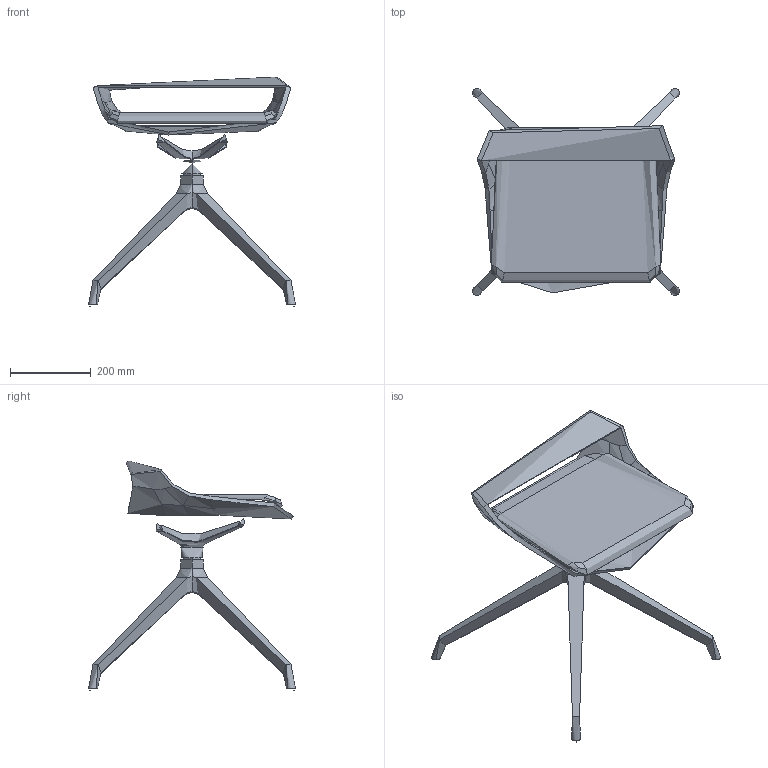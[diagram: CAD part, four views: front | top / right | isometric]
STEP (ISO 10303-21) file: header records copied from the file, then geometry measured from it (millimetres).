
FILE_DESCRIPTION(/* description */ (''),/* implementation_level */ '2;1');
FILE_NAME(/* name */ 'LOTUS LT-02-H,F70-N',/* time_stamp */ '2025-02-07T14:45:16+01:00',/* author */ (''),/* organization */ (''),/* preprocessor_version */ 'ST-DEVELOPER v16.5',/* originating_system */ 'Rhino 7.37',/* authorisation */ '');
FILE_SCHEMA (('CONFIG_CONTROL_DESIGN'));
Length unit declared in the file: millimetre
Products named in the file (1): Document
Bounding box: 512.73 x 512.72 x 569.73 mm (x, y, z)
Volume: 3540760.7 mm3; surface area: 1082870.8 mm2
Topology: 2 solids, 9 shells, 185 faces, 464 edges, 282 vertices
Faces by surface type: bspline 137, plane 26, cylinder 22
Full cylindrical faces by diameter (mm): 22 x4
Entity records: 25036 total; most frequent: CARTESIAN_POINT 22208, ORIENTED_EDGE 878, EDGE_CURVE 455, B_SPLINE_CURVE_WITH_KNOTS 317, VERTEX_POINT 278, ADVANCED_FACE 185, FACE_OUTER_BOUND 185, EDGE_LOOP 185
